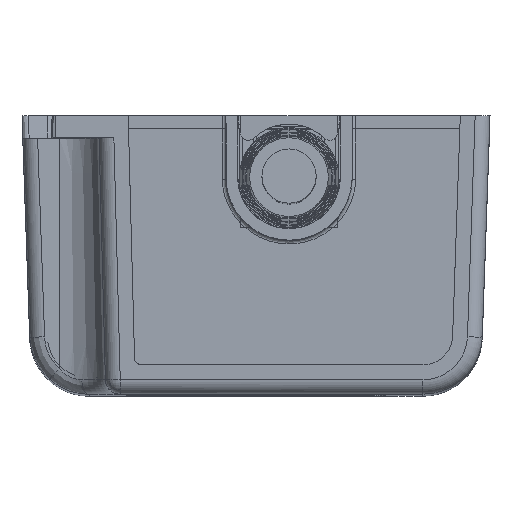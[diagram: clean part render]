
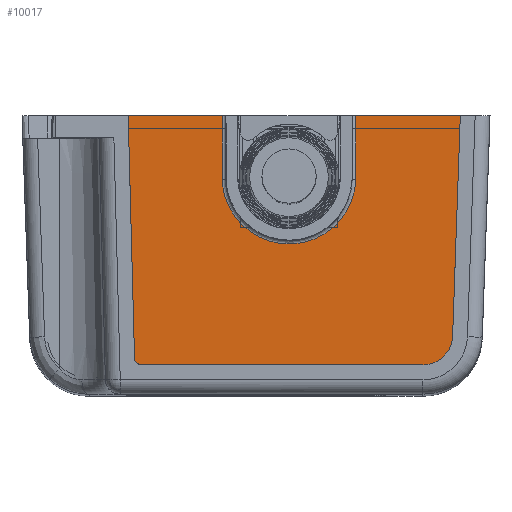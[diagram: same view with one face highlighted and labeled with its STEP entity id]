
A CAD part, top view. The second image highlights one B-rep face of the part: STEP entity #10017.
In plain terms, the highlighted planar face has unit normal (0, -0.035, 0.999) as drawn and (0, -0.999, 0.035) by its records, which use the part's own axes.
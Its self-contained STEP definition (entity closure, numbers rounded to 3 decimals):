
#1633=DIRECTION('',(1.,0.,0.));
#1634=VECTOR('',#1633,12.656);
#1635=CARTESIAN_POINT('',(57.297,-85.118,
0.));
#1636=LINE('',#1635,#1634);
#1829=DIRECTION('',(-1.,0.,0.));
#1830=VECTOR('',#1829,14.061);
#1831=CARTESIAN_POINT('',(39.279,-85.118,
0.));
#1832=LINE('',#1831,#1830);
#1833=DIRECTION('',(0.035,0.035,0.999));
#1834=VECTOR('',#1833,29.848);
#1835=CARTESIAN_POINT('',(25.218,-85.118,
0.));
#1836=LINE('',#1835,#1834);
#1837=CARTESIAN_POINT('',(30.253,-84.085,29.556));
#1838=DIRECTION('',(0.,0.999,-0.035));
#1839=DIRECTION('',(-0.998,0.002,0.064));
#1840=AXIS2_PLACEMENT_3D('',#1837,#1838,#1839);
#1842=DIRECTION('',(1.,0.,0.));
#1843=VECTOR('',#1842,37.842);
#1844=CARTESIAN_POINT('',(30.259,-83.946,33.556));
#1845=LINE('',#1844,#1843);
#1846=CARTESIAN_POINT('',(68.1,-83.981,32.558));
#1847=DIRECTION('',(0.,0.999,-0.035));
#1848=DIRECTION('',(0.001,0.035,0.999));
#1849=AXIS2_PLACEMENT_3D('',#1846,#1847,#1848);
#1851=DIRECTION('',(0.026,-0.035,-0.999));
#1852=VECTOR('',#1851,32.615);
#1853=CARTESIAN_POINT('',(69.1,-83.98,32.584));
#1854=LINE('',#1853,#1852);
#1855=CARTESIAN_POINT('',(39.279,-84.818,8.575));
#1856=CARTESIAN_POINT('',(39.308,-84.794,9.276));
#1857=CARTESIAN_POINT('',(39.506,-84.747,10.622));
#1858=CARTESIAN_POINT('',(40.254,-84.681,12.514));
#1859=CARTESIAN_POINT('',(41.372,-84.623,14.159));
#1860=CARTESIAN_POINT('',(42.813,-84.576,15.514));
#1861=CARTESIAN_POINT('',(44.485,-84.541,16.514));
#1862=CARTESIAN_POINT('',(46.343,-84.519,17.138));
#1863=CARTESIAN_POINT('',(48.294,-84.512,17.349));
#1864=CARTESIAN_POINT('',(50.254,-84.519,17.135));
#1865=CARTESIAN_POINT('',(52.125,-84.541,16.499));
#1866=CARTESIAN_POINT('',(53.792,-84.577,15.492));
#1867=CARTESIAN_POINT('',(55.214,-84.624,14.144));
#1868=CARTESIAN_POINT('',(56.305,-84.68,12.539));
#1869=CARTESIAN_POINT('',(57.06,-84.745,10.671));
#1870=CARTESIAN_POINT('',(57.264,-84.793,9.298));
#1871=CARTESIAN_POINT('',(57.297,-84.818,8.575));
#4550=DIRECTION('',(0.,0.035,0.999));
#4551=VECTOR('',#4550,8.58);
#4552=CARTESIAN_POINT('',(39.279,-85.118,
0.));
#4553=LINE('',#4552,#4551);
#4578=CARTESIAN_POINT('',(57.297,-85.118,
0.));
#4586=DIRECTION('',(0.,-0.035,-0.999));
#4587=VECTOR('',#4586,8.58);
#4588=CARTESIAN_POINT('',(57.297,-84.818,8.575));
#4589=LINE('',#4588,#4587);
#6506=CARTESIAN_POINT('',(25.218,-85.118,
0.));
#6507=VERTEX_POINT('',#6506);
#6508=CARTESIAN_POINT('',(39.279,-85.118,
0.));
#6509=VERTEX_POINT('',#6508);
#6612=VERTEX_POINT('',#4578);
#6613=CARTESIAN_POINT('',(69.953,-85.118,
0.));
#6614=VERTEX_POINT('',#6613);
#6681=CARTESIAN_POINT('',(69.1,-83.98,32.584));
#6682=VERTEX_POINT('',#6681);
#6683=VERTEX_POINT('',#1855);
#6684=VERTEX_POINT('',#1871);
#6685=CARTESIAN_POINT('',(26.259,-84.076,29.812));
#6686=VERTEX_POINT('',#6685);
#6687=CARTESIAN_POINT('',(30.262,-83.946,33.555));
#6688=VERTEX_POINT('',#6687);
#6689=CARTESIAN_POINT('',(68.101,-83.946,33.557));
#6690=VERTEX_POINT('',#6689);
#9992=CARTESIAN_POINT('',(58.47,-84.278,24.035));
#9993=DIRECTION('',(0.,-0.999,0.035));
#9994=DIRECTION('',(0.,-0.035,-0.999));
#9995=AXIS2_PLACEMENT_3D('',#9992,#9993,#9994);
#9996=PLANE('',#9995);
#9998=ORIENTED_EDGE('',*,*,#9997,.F.);
#10000=ORIENTED_EDGE('',*,*,#9999,.F.);
#10002=ORIENTED_EDGE('',*,*,#10001,.T.);
#10004=ORIENTED_EDGE('',*,*,#10003,.T.);
#10006=ORIENTED_EDGE('',*,*,#10005,.T.);
#10008=ORIENTED_EDGE('',*,*,#10007,.T.);
#10010=ORIENTED_EDGE('',*,*,#10009,.T.);
#10011=ORIENTED_EDGE('',*,*,#9977,.T.);
#10012=ORIENTED_EDGE('',*,*,#9698,.F.);
#10014=ORIENTED_EDGE('',*,*,#10013,.F.);
#10015=EDGE_LOOP('',(#9998,#10000,#10002,#10004,#10006,#10008,#10010,#10011,
#10012,#10014));
#10016=FACE_OUTER_BOUND('',#10015,.F.);
#1841=CIRCLE('',#1840,4.002);
#1850=CIRCLE('',#1849,1.);
#1872=B_SPLINE_CURVE_WITH_KNOTS('',3,(#1855,#1856,#1857,#1858,#1859,#1860,#1861,
#1862,#1863,#1864,#1865,#1866,#1867,#1868,#1869,#1870,#1871),.UNSPECIFIED.,.F.,
.F.,(4,1,1,1,1,1,1,1,1,1,1,1,1,1,4),(0.,0.071,0.143,
0.214,0.286,0.357,0.429,0.5,
0.571,0.643,0.714,0.786,
0.857,0.929,1.),.UNSPECIFIED.);
#9698=EDGE_CURVE('',#6612,#6614,#1636,.T.);
#9977=EDGE_CURVE('',#6682,#6614,#1854,.T.);
#9997=EDGE_CURVE('',#6683,#6684,#1872,.T.);
#9999=EDGE_CURVE('',#6509,#6683,#4553,.T.);
#10001=EDGE_CURVE('',#6509,#6507,#1832,.T.);
#10003=EDGE_CURVE('',#6507,#6686,#1836,.T.);
#10005=EDGE_CURVE('',#6686,#6688,#1841,.T.);
#10007=EDGE_CURVE('',#6688,#6690,#1845,.T.);
#10009=EDGE_CURVE('',#6690,#6682,#1850,.T.);
#10013=EDGE_CURVE('',#6684,#6612,#4589,.T.);
#10017=ADVANCED_FACE('',(#10016),#9996,.T.);
